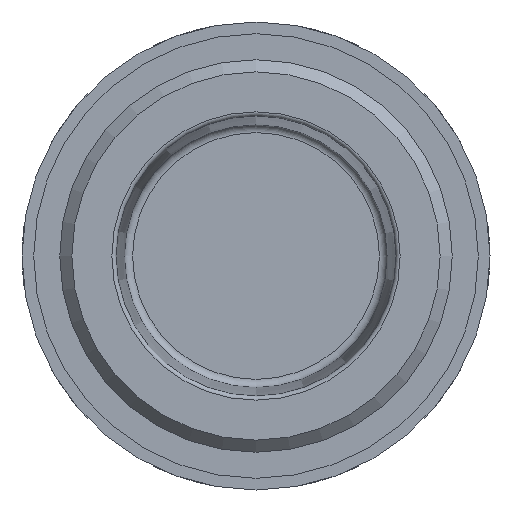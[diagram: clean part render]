
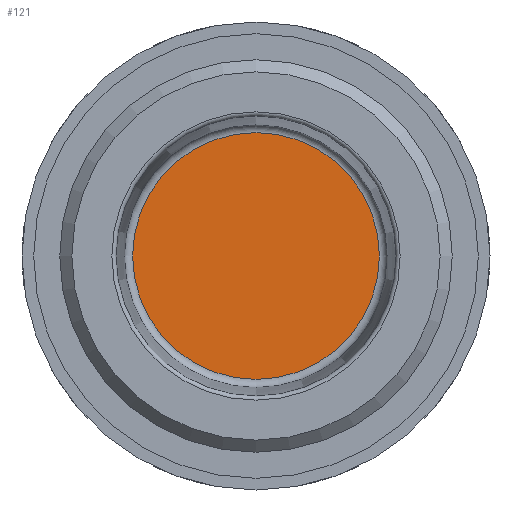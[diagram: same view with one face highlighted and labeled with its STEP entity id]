
A CAD part, left-side view. The second image highlights one B-rep face of the part: STEP entity #121.
In plain terms, the highlighted planar face has unit normal (-1, 0, 0).
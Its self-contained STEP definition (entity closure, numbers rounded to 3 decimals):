
#121 = ADVANCED_FACE( '', ( #238 ), #239, .F. );
#238 = FACE_OUTER_BOUND( '', #364, .T. );
#239 = PLANE( '', #365 );
#364 = EDGE_LOOP( '', ( #753 ) );
#365 = AXIS2_PLACEMENT_3D( '', #754, #755, #756 );
#753 = ORIENTED_EDGE( '', *, *, #953, .F. );
#754 = CARTESIAN_POINT( '', ( 31., 0., 0. ) );
#755 = DIRECTION( '', ( 1., 0., 0. ) );
#756 = DIRECTION( '', ( 0., 0., -1. ) );
#953 = EDGE_CURVE( '', #1180, #1180, #1181, .T. );
#1180 = VERTEX_POINT( '', #1528 );
#1181 = CIRCLE( '', #1529, 15.024 );
#1528 = CARTESIAN_POINT( '', ( 31., 0., -15.024 ) );
#1529 = AXIS2_PLACEMENT_3D( '', #1749, #1750, #1751 );
#1749 = CARTESIAN_POINT( '', ( 31., 0., 0. ) );
#1750 = DIRECTION( '', ( 1., 0., 0. ) );
#1751 = DIRECTION( '', ( 0., 0., -1. ) );
